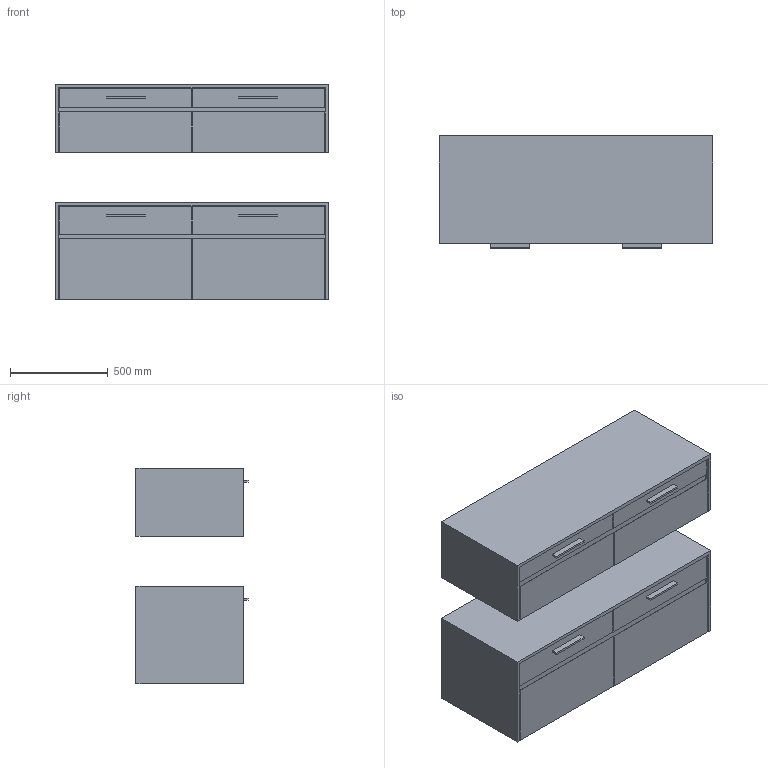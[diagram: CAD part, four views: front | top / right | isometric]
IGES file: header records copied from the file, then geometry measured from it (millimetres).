
Global section: file name: \\Archi-NAS\Comune\X GIOVANNI\MOBILI\SLIMLINE\SLIMLINE_glass + wood_01.igs; native system: Rhinoceros ( Feb 23 2021 ); preprocessor: Trout Lake IGES 012 Feb 23 2021; date: 230607.145050; units: millimetre
Bounding box: 1400 x 573 x 1104.58 mm (x, y, z)
Surface area: 22556548.2 mm2 (no closed solid volume)
Topology: 0 solids, 0 shells, 420 faces, 2224 edges, 2224 vertices
Faces by surface type: bspline 420
